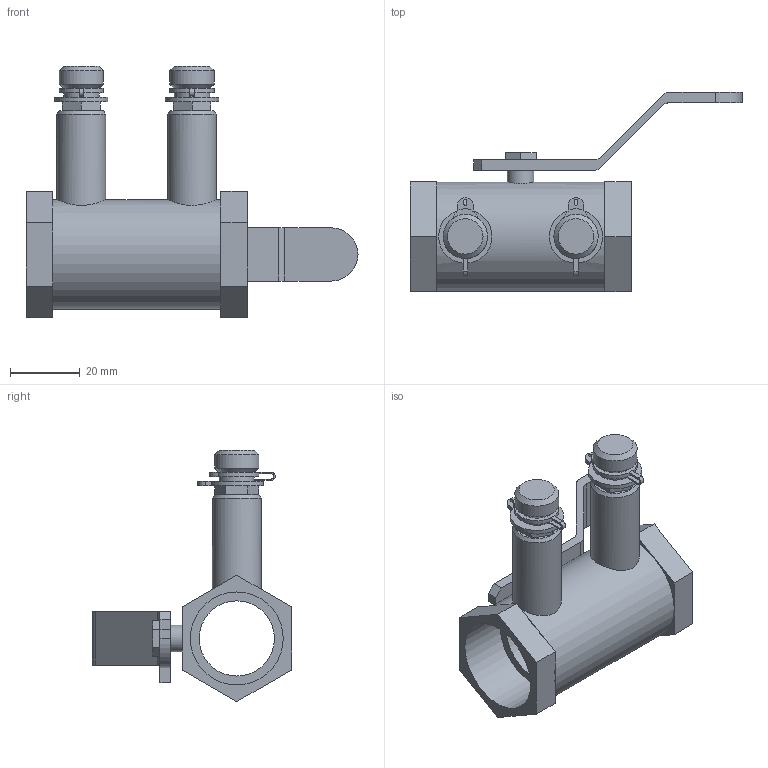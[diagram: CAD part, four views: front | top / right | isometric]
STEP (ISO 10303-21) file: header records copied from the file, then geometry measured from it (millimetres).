
FILE_DESCRIPTION(/* description */ ('VIC BALANCING VALVE SERIES 78BL (THD)','CAx-IF Rec.Pracs.---Representation and Presentation of Product Manufacturing Information (PMI)---4.0---2014-10-13'),/* implementation_level */ '2;1');
FILE_NAME(/* name */ 'C:\Users\kkamble\Desktop\New folder (12)\New folder\step\Victaulic-IPS-TA Balancing Ball Valve Series 78BL (THD)\Victaulic-IPS-TA Balancing Ball Valve Series 78BL (THD)_0.75 (20).stp',/* time_stamp */ '2020-10-13T18:39:47+05:00',/* author */ ('kkamble'),/* organization */ ('Victaulic'),/* preprocessor_version */ 'ST-DEVELOPER v17.2',/* originating_system */ 'Autodesk Inventor 2019',/* authorisation */ '');
FILE_SCHEMA (('AP242_MANAGED_MODEL_BASED_3D_ENGINEERING_MIM_LF { 1 0 10303 442 1 1 4 }'));
Length unit declared in the file: inch
Products named in the file (1): 78BL-0.75
Bounding box: 95.25 x 57.11 x 72.12 mm (x, y, z)
Volume: 36162.5 mm3; surface area: 19583.1 mm2
Topology: 3 solids, 3 shells, 161 faces, 425 edges, 271 vertices
Faces by surface type: plane 119, cylinder 36, cone 6
Full cylindrical faces by diameter (mm): 4.318 x1, 7.62 x1, 12.7 x2, 13.97 x2, 21.59 x1, 26.67 x2, 31.42 x1
Entity records: 5423 total; most frequent: CARTESIAN_POINT 981, DIRECTION 892, ORIENTED_EDGE 854, EDGE_CURVE 427, LINE 300, VECTOR 300, AXIS2_PLACEMENT_3D 296, VERTEX_POINT 273
